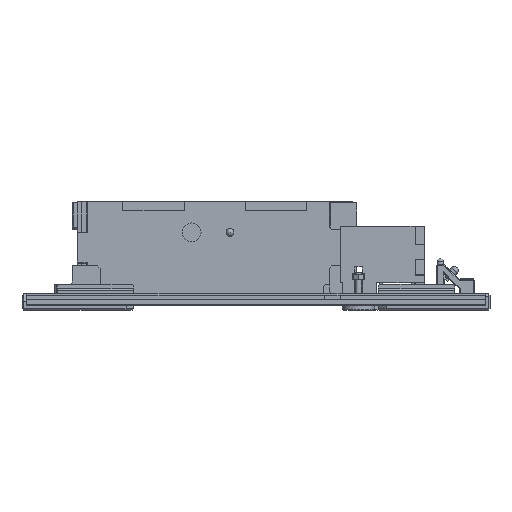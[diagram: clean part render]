
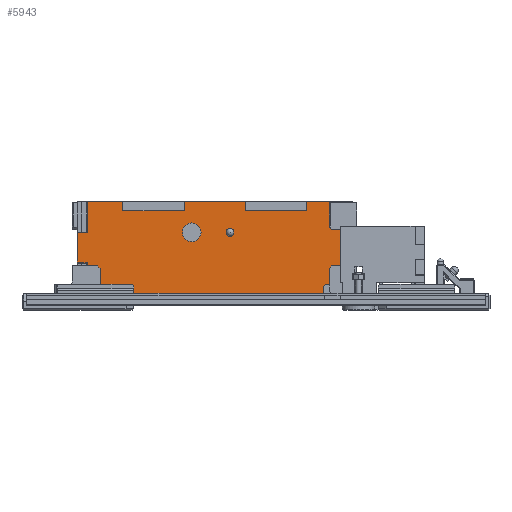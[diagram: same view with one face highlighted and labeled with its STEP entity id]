
A CAD part, left-side view. The second image highlights one B-rep face of the part: STEP entity #5943.
In plain terms, the highlighted planar face has unit normal (-1, 0, 0) as drawn and (0, -1, 0) by its records, which use the part's own axes.
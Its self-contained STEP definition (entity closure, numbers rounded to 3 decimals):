
#5943=ADVANCED_FACE('',(#17063,#17064,#17065),#7827,.T.);
#7827=PLANE('',#41952);
#10764=LINE('',#59522,#14631);
#10766=LINE('',#59526,#14633);
#10770=LINE('',#59535,#14637);
#10773=LINE('',#59541,#14640);
#10778=LINE('',#59551,#14645);
#10779=LINE('',#59553,#14646);
#10782=LINE('',#59559,#14649);
#10785=LINE('',#59565,#14652);
#10788=LINE('',#59571,#14655);
#10791=LINE('',#59577,#14658);
#10794=LINE('',#59583,#14661);
#10797=LINE('',#59589,#14664);
#10800=LINE('',#59595,#14667);
#10803=LINE('',#59601,#14670);
#10806=LINE('',#59607,#14673);
#10809=LINE('',#59613,#14676);
#10812=LINE('',#59619,#14679);
#10815=LINE('',#59625,#14682);
#10818=LINE('',#59631,#14685);
#10821=LINE('',#59637,#14688);
#10824=LINE('',#59643,#14691);
#10827=LINE('',#59649,#14694);
#10831=LINE('',#59668,#14698);
#10832=LINE('',#59672,#14699);
#14631=VECTOR('',#47726,1.);
#14633=VECTOR('',#47730,1.);
#14637=VECTOR('',#47736,1.);
#14640=VECTOR('',#47741,1.);
#14645=VECTOR('',#47748,1.);
#14646=VECTOR('',#47751,1.);
#14649=VECTOR('',#47756,1.);
#14652=VECTOR('',#47761,1.);
#14655=VECTOR('',#47766,1.);
#14658=VECTOR('',#47771,1.);
#14661=VECTOR('',#47776,1.);
#14664=VECTOR('',#47781,1.);
#14667=VECTOR('',#47786,1.);
#14670=VECTOR('',#47791,1.);
#14673=VECTOR('',#47796,1.);
#14676=VECTOR('',#47801,1.);
#14679=VECTOR('',#47806,1.);
#14682=VECTOR('',#47811,1.);
#14685=VECTOR('',#47816,1.);
#14688=VECTOR('',#47821,1.);
#14691=VECTOR('',#47826,1.);
#14694=VECTOR('',#47831,1.);
#14698=VECTOR('',#47851,1.);
#14699=VECTOR('',#47854,1.);
#17063=FACE_BOUND('',#18823,.T.);
#17064=FACE_BOUND('',#18824,.T.);
#17065=FACE_BOUND('',#18825,.T.);
#18823=EDGE_LOOP('',(#25586));
#18824=EDGE_LOOP('',(#25587));
#18825=EDGE_LOOP('',(#25588,#25589,#25590,#25591,#25592,#25593,#25594,#25595,
#25596,#25597,#25598,#25599,#25600,#25601,#25602,#25603,#25604,#25605,#25606,
#25607,#25608,#25609,#25610,#25611,#25612,#25613));
#25586=ORIENTED_EDGE('',*,*,#37372,.F.);
#25587=ORIENTED_EDGE('',*,*,#37373,.F.);
#25588=ORIENTED_EDGE('',*,*,#37374,.F.);
#25589=ORIENTED_EDGE('',*,*,#37375,.F.);
#25590=ORIENTED_EDGE('',*,*,#37376,.F.);
#25591=ORIENTED_EDGE('',*,*,#37377,.F.);
#25592=ORIENTED_EDGE('',*,*,#37315,.T.);
#25593=ORIENTED_EDGE('',*,*,#37316,.T.);
#25594=ORIENTED_EDGE('',*,*,#37319,.T.);
#25595=ORIENTED_EDGE('',*,*,#37322,.T.);
#25596=ORIENTED_EDGE('',*,*,#37325,.T.);
#25597=ORIENTED_EDGE('',*,*,#37328,.T.);
#25598=ORIENTED_EDGE('',*,*,#37331,.T.);
#25599=ORIENTED_EDGE('',*,*,#37334,.T.);
#25600=ORIENTED_EDGE('',*,*,#37337,.T.);
#25601=ORIENTED_EDGE('',*,*,#37340,.T.);
#25602=ORIENTED_EDGE('',*,*,#37343,.T.);
#25603=ORIENTED_EDGE('',*,*,#37346,.T.);
#25604=ORIENTED_EDGE('',*,*,#37349,.T.);
#25605=ORIENTED_EDGE('',*,*,#37352,.T.);
#25606=ORIENTED_EDGE('',*,*,#37355,.T.);
#25607=ORIENTED_EDGE('',*,*,#37358,.T.);
#25608=ORIENTED_EDGE('',*,*,#37361,.T.);
#25609=ORIENTED_EDGE('',*,*,#37364,.T.);
#25610=ORIENTED_EDGE('',*,*,#37303,.T.);
#25611=ORIENTED_EDGE('',*,*,#37307,.T.);
#25612=ORIENTED_EDGE('',*,*,#37310,.T.);
#25613=ORIENTED_EDGE('',*,*,#37301,.T.);
#32771=VERTEX_POINT('',#59521);
#32772=VERTEX_POINT('',#59523);
#32773=VERTEX_POINT('',#59527);
#32774=VERTEX_POINT('',#59528);
#32777=VERTEX_POINT('',#59536);
#32780=VERTEX_POINT('',#59546);
#32782=VERTEX_POINT('',#59550);
#32783=VERTEX_POINT('',#59554);
#32785=VERTEX_POINT('',#59560);
#32787=VERTEX_POINT('',#59566);
#32789=VERTEX_POINT('',#59572);
#32791=VERTEX_POINT('',#59578);
#32793=VERTEX_POINT('',#59584);
#32795=VERTEX_POINT('',#59590);
#32797=VERTEX_POINT('',#59596);
#32799=VERTEX_POINT('',#59602);
#32801=VERTEX_POINT('',#59608);
#32803=VERTEX_POINT('',#59614);
#32805=VERTEX_POINT('',#59620);
#32807=VERTEX_POINT('',#59626);
#32809=VERTEX_POINT('',#59632);
#32811=VERTEX_POINT('',#59638);
#32813=VERTEX_POINT('',#59644);
#32820=VERTEX_POINT('',#59665);
#32821=VERTEX_POINT('',#59667);
#32822=VERTEX_POINT('',#59669);
#32823=VERTEX_POINT('',#59671);
#32824=VERTEX_POINT('',#59673);
#37301=EDGE_CURVE('',#32772,#32771,#10764,.T.);
#37303=EDGE_CURVE('',#32773,#32774,#10766,.T.);
#37307=EDGE_CURVE('',#32774,#32777,#10770,.T.);
#37310=EDGE_CURVE('',#32777,#32772,#10773,.T.);
#37315=EDGE_CURVE('',#32780,#32782,#10778,.T.);
#37316=EDGE_CURVE('',#32782,#32783,#10779,.T.);
#37319=EDGE_CURVE('',#32783,#32785,#10782,.T.);
#37322=EDGE_CURVE('',#32785,#32787,#10785,.T.);
#37325=EDGE_CURVE('',#32787,#32789,#10788,.T.);
#37328=EDGE_CURVE('',#32789,#32791,#10791,.T.);
#37331=EDGE_CURVE('',#32791,#32793,#10794,.T.);
#37334=EDGE_CURVE('',#32793,#32795,#10797,.T.);
#37337=EDGE_CURVE('',#32795,#32797,#10800,.T.);
#37340=EDGE_CURVE('',#32797,#32799,#10803,.T.);
#37343=EDGE_CURVE('',#32799,#32801,#10806,.T.);
#37346=EDGE_CURVE('',#32801,#32803,#10809,.T.);
#37349=EDGE_CURVE('',#32803,#32805,#10812,.T.);
#37352=EDGE_CURVE('',#32805,#32807,#10815,.T.);
#37355=EDGE_CURVE('',#32807,#32809,#10818,.T.);
#37358=EDGE_CURVE('',#32809,#32811,#10821,.T.);
#37361=EDGE_CURVE('',#32811,#32813,#10824,.T.);
#37364=EDGE_CURVE('',#32813,#32773,#10827,.T.);
#37372=EDGE_CURVE('',#32820,#32820,#40326,.T.);
#37373=EDGE_CURVE('',#32821,#32821,#40327,.T.);
#37374=EDGE_CURVE('',#32822,#32771,#10831,.T.);
#37375=EDGE_CURVE('',#32823,#32822,#40328,.T.);
#37376=EDGE_CURVE('',#32824,#32823,#10832,.T.);
#37377=EDGE_CURVE('',#32780,#32824,#40329,.T.);
#40326=CIRCLE('',#41948,6.1);
#40327=CIRCLE('',#41949,2.6);
#40328=CIRCLE('',#41950,2.5);
#40329=CIRCLE('',#41951,2.5);
#41948=AXIS2_PLACEMENT_3D('',#59664,#47847,#47848);
#41949=AXIS2_PLACEMENT_3D('',#59666,#47849,#47850);
#41950=AXIS2_PLACEMENT_3D('',#59670,#47852,#47853);
#41951=AXIS2_PLACEMENT_3D('',#59674,#47855,#47856);
#41952=AXIS2_PLACEMENT_3D('',#59675,#47857,#47858);
#47726=DIRECTION('',(1.,0.,0.));
#47730=DIRECTION('',(0.,0.,-1.));
#47736=DIRECTION('',(1.,0.,0.));
#47741=DIRECTION('',(0.,0.,-1.));
#47748=DIRECTION('',(0.,0.,1.));
#47751=DIRECTION('',(1.,0.,0.));
#47756=DIRECTION('',(0.,0.,1.));
#47761=DIRECTION('',(-1.,0.,0.));
#47766=DIRECTION('',(0.,0.,1.));
#47771=DIRECTION('',(-1.,0.,0.));
#47776=DIRECTION('',(0.,0.,1.));
#47781=DIRECTION('',(-1.,0.,0.));
#47786=DIRECTION('',(0.,0.,-1.));
#47791=DIRECTION('',(-1.,0.,0.));
#47796=DIRECTION('',(0.,0.,1.));
#47801=DIRECTION('',(-1.,0.,0.));
#47806=DIRECTION('',(0.,0.,-1.));
#47811=DIRECTION('',(-1.,0.,0.));
#47816=DIRECTION('',(0.,0.,1.));
#47821=DIRECTION('',(-1.,0.,0.));
#47826=DIRECTION('',(0.,0.,-1.));
#47831=DIRECTION('',(-1.,0.,0.));
#47847=DIRECTION('',(0.,-1.,0.));
#47848=DIRECTION('',(1.,0.,0.));
#47849=DIRECTION('',(0.,-1.,0.));
#47850=DIRECTION('',(1.,0.,0.));
#47851=DIRECTION('',(0.,0.,-1.));
#47852=DIRECTION('',(0.,-1.,0.));
#47853=DIRECTION('',(0.,0.,1.));
#47854=DIRECTION('',(-1.,0.,0.));
#47855=DIRECTION('',(0.,-1.,0.));
#47856=DIRECTION('',(0.,0.,1.));
#47857=DIRECTION('',(0.,-1.,0.));
#47858=DIRECTION('',(0.,0.,-1.));
#59521=CARTESIAN_POINT('',(161.,0.,0.));
#59522=CARTESIAN_POINT('',(7.,0.,0.));
#59523=CARTESIAN_POINT('',(7.,0.,0.));
#59526=CARTESIAN_POINT('',(0.,0.,40.));
#59527=CARTESIAN_POINT('',(0.,0.,40.));
#59528=CARTESIAN_POINT('',(0.,0.,19.9));
#59535=CARTESIAN_POINT('',(0.,0.,19.9));
#59536=CARTESIAN_POINT('',(7.,0.,19.9));
#59541=CARTESIAN_POINT('',(7.,0.,19.9));
#59546=CARTESIAN_POINT('',(173.,0.,3.5));
#59550=CARTESIAN_POINT('',(173.,0.,19.9));
#59551=CARTESIAN_POINT('',(173.,0.,0.));
#59553=CARTESIAN_POINT('',(173.,0.,19.9));
#59554=CARTESIAN_POINT('',(180.,0.,19.9));
#59559=CARTESIAN_POINT('',(180.,0.,19.9));
#59560=CARTESIAN_POINT('',(180.,0.,40.));
#59565=CARTESIAN_POINT('',(180.,0.,40.));
#59566=CARTESIAN_POINT('',(173.,0.,40.));
#59571=CARTESIAN_POINT('',(173.,0.,40.));
#59572=CARTESIAN_POINT('',(173.,0.,56.8));
#59577=CARTESIAN_POINT('',(173.,0.,56.8));
#59578=CARTESIAN_POINT('',(164.8,0.,56.8));
#59583=CARTESIAN_POINT('',(164.8,0.,56.8));
#59584=CARTESIAN_POINT('',(164.8,0.,60.));
#59589=CARTESIAN_POINT('',(164.8,0.,60.));
#59590=CARTESIAN_POINT('',(150.,0.,60.));
#59595=CARTESIAN_POINT('',(150.,0.,60.));
#59596=CARTESIAN_POINT('',(150.,0.,54.));
#59601=CARTESIAN_POINT('',(150.,0.,54.));
#59602=CARTESIAN_POINT('',(110.,0.,54.));
#59607=CARTESIAN_POINT('',(110.,0.,54.));
#59608=CARTESIAN_POINT('',(110.,0.,60.));
#59613=CARTESIAN_POINT('',(110.,0.,60.));
#59614=CARTESIAN_POINT('',(70.,0.,60.));
#59619=CARTESIAN_POINT('',(70.,0.,60.));
#59620=CARTESIAN_POINT('',(70.,0.,54.));
#59625=CARTESIAN_POINT('',(70.,0.,54.));
#59626=CARTESIAN_POINT('',(30.,0.,54.));
#59631=CARTESIAN_POINT('',(30.,0.,54.));
#59632=CARTESIAN_POINT('',(30.,0.,60.));
#59637=CARTESIAN_POINT('',(30.,0.,60.));
#59638=CARTESIAN_POINT('',(7.,0.,60.));
#59643=CARTESIAN_POINT('',(7.,0.,60.));
#59644=CARTESIAN_POINT('',(7.,0.,40.));
#59649=CARTESIAN_POINT('',(7.,0.,40.));
#59664=CARTESIAN_POINT('',(75.,0.,40.));
#59665=CARTESIAN_POINT('',(81.1,0.,40.));
#59666=CARTESIAN_POINT('',(100.,0.,40.));
#59667=CARTESIAN_POINT('',(102.6,0.,40.));
#59668=CARTESIAN_POINT('',(161.,0.,3.5));
#59669=CARTESIAN_POINT('',(161.,0.,3.5));
#59670=CARTESIAN_POINT('',(163.5,0.,3.5));
#59671=CARTESIAN_POINT('',(163.5,0.,6.));
#59672=CARTESIAN_POINT('',(170.5,0.,6.));
#59673=CARTESIAN_POINT('',(170.5,0.,6.));
#59674=CARTESIAN_POINT('',(170.5,0.,3.5));
#59675=CARTESIAN_POINT('',(0.,0.,0.));
